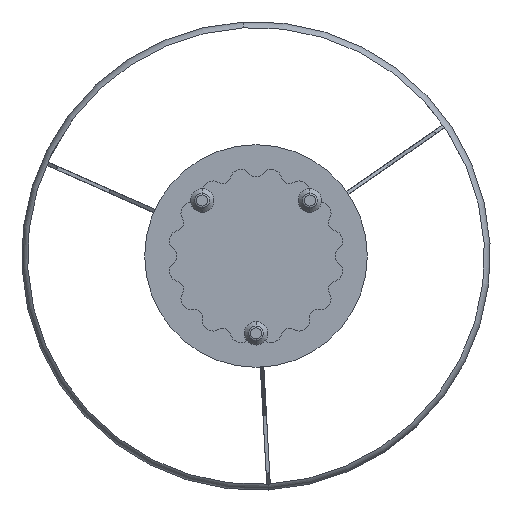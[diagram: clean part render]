
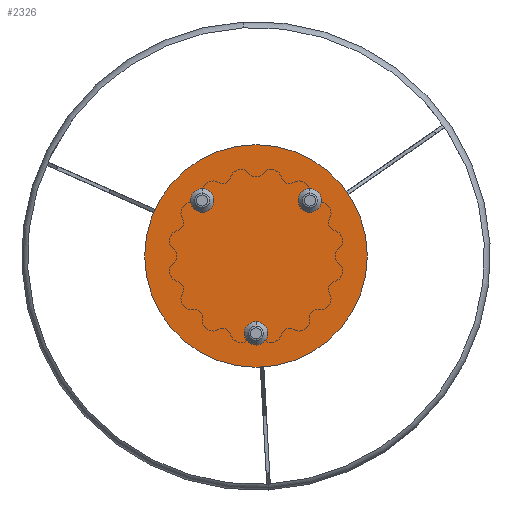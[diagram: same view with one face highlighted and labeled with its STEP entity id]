
A CAD part, front view. The second image highlights one B-rep face of the part: STEP entity #2326.
In plain terms, the highlighted planar face has unit normal (0, -1, 0).
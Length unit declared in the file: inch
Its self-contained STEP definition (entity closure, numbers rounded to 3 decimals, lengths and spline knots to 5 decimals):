
#158 = DIRECTION ( 'NONE',  ( 0., -1., 0. ) ) ;
#348 = DIRECTION ( 'NONE',  ( 0., 0., -1. ) ) ;
#515 = CARTESIAN_POINT ( 'NONE',  ( -22.00812, -7.26355, 23.85827 ) ) ;
#559 = CARTESIAN_POINT ( 'NONE',  ( -22.00812, -7.26355, 23.85827 ) ) ;
#1010 = AXIS2_PLACEMENT_3D ( 'NONE', #515, #158, #1730 ) ;
#1031 = DIRECTION ( 'NONE',  ( 0., -1., 0. ) ) ;
#1132 = DIRECTION ( 'NONE',  ( 0., -1., 0. ) ) ;
#1286 = CARTESIAN_POINT ( 'NONE',  ( -22.00812, -7.26355, 20.11811 ) ) ;
#1384 = AXIS2_PLACEMENT_3D ( 'NONE', #3193, #1132, #348 ) ;
#1556 = EDGE_LOOP ( 'NONE', ( #4047, #4155 ) ) ;
#1730 = DIRECTION ( 'NONE',  ( 0., 0., -1. ) ) ;
#1780 = VERTEX_POINT ( 'NONE', #1286 ) ;
#2190 = FACE_OUTER_BOUND ( 'NONE', #1556, .T. ) ;
#2326 = ADVANCED_FACE ( 'NONE', ( #2190 ), #4609, .T. ) ;
#2824 = EDGE_CURVE ( 'NONE', #1780, #4480, #4375, .T. ) ;
#3193 = CARTESIAN_POINT ( 'NONE',  ( -22.00812, -7.26355, 23.85827 ) ) ;
#3682 = CARTESIAN_POINT ( 'NONE',  ( -22.00812, -7.26355, 27.59843 ) ) ;
#3706 = DIRECTION ( 'NONE',  ( 0., 0., -1. ) ) ;
#3716 = CIRCLE ( 'NONE', #3946, 3.74016 ) ;
#3946 = AXIS2_PLACEMENT_3D ( 'NONE', #559, #1031, #3706 ) ;
#4047 = ORIENTED_EDGE ( 'NONE', *, *, #4242, .T. ) ;
#4155 = ORIENTED_EDGE ( 'NONE', *, *, #2824, .T. ) ;
#4242 = EDGE_CURVE ( 'NONE', #4480, #1780, #3716, .T. ) ;
#4375 = CIRCLE ( 'NONE', #1384, 3.74016 ) ;
#4480 = VERTEX_POINT ( 'NONE', #3682 ) ;
#4609 = PLANE ( 'NONE',  #1010 ) ;
